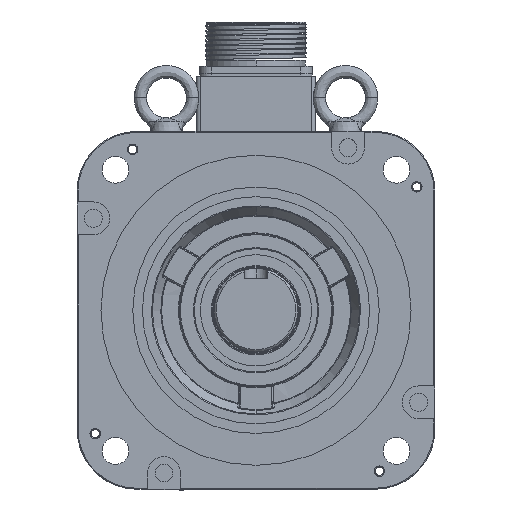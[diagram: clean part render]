
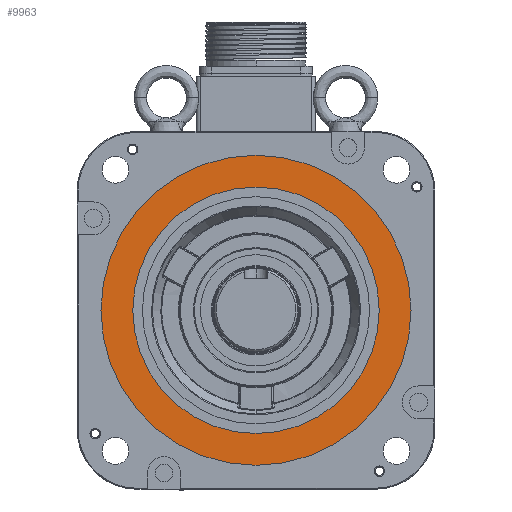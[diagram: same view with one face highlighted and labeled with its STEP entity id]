
A CAD part, top view. The second image highlights one B-rep face of the part: STEP entity #9963.
In plain terms, the highlighted planar face has unit normal (0, 0, -1).
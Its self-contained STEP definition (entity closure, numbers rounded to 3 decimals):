
#428 = DIRECTION ( 'NONE',  ( 0., 0., -1. ) ) ;
#1720 = AXIS2_PLACEMENT_3D ( 'NONE', #20860, #428, #24316 ) ;
#4794 = CIRCLE ( 'NONE', #1720, 62. ) ;
#4994 = EDGE_CURVE ( 'NONE', #32543, #9659, #23048, .T. ) ;
#5049 = DIRECTION ( 'NONE',  ( 1., 0., 0. ) ) ;
#6677 = ORIENTED_EDGE ( 'NONE', *, *, #37160, .F. ) ;
#8297 = CARTESIAN_POINT ( 'NONE',  ( 36.315, 219.183, 90.807 ) ) ;
#9416 = AXIS2_PLACEMENT_3D ( 'NONE', #19253, #43199, #22704 ) ;
#9659 = VERTEX_POINT ( 'NONE', #18515 ) ;
#9963 = ADVANCED_FACE ( 'NONE', ( #18445, #10437 ), #22079, .F. ) ;
#10437 = FACE_BOUND ( 'NONE', #22372, .T. ) ;
#12763 = CIRCLE ( 'NONE', #43397, 62. ) ;
#16477 = EDGE_CURVE ( 'NONE', #33425, #23368, #12763, .T. ) ;
#18423 = DIRECTION ( 'NONE',  ( 0., 0., 1. ) ) ;
#18445 = FACE_OUTER_BOUND ( 'NONE', #21808, .T. ) ;
#18515 = CARTESIAN_POINT ( 'NONE',  ( 114.315, 219.183, 90.807 ) ) ;
#18836 = DIRECTION ( 'NONE',  ( 0., 0., -1. ) ) ;
#19253 = CARTESIAN_POINT ( 'NONE',  ( 36.315, 219.183, 90.807 ) ) ;
#19306 = CARTESIAN_POINT ( 'NONE',  ( -25.685, 219.183, 90.807 ) ) ;
#20860 = CARTESIAN_POINT ( 'NONE',  ( 36.315, 219.183, 90.807 ) ) ;
#21808 = EDGE_LOOP ( 'NONE', ( #6677, #42062 ) ) ;
#21888 = AXIS2_PLACEMENT_3D ( 'NONE', #38940, #18423, #42403 ) ;
#22079 = PLANE ( 'NONE',  #26620 ) ;
#22372 = EDGE_LOOP ( 'NONE', ( #38418, #28121 ) ) ;
#22422 = CIRCLE ( 'NONE', #9416, 78. ) ;
#22704 = DIRECTION ( 'NONE',  ( 1., 0., 0. ) ) ;
#23048 = CIRCLE ( 'NONE', #21888, 78. ) ;
#23368 = VERTEX_POINT ( 'NONE', #27472 ) ;
#24316 = DIRECTION ( 'NONE',  ( 1., 0., 0. ) ) ;
#25369 = EDGE_CURVE ( 'NONE', #23368, #33425, #4794, .T. ) ;
#25510 = DIRECTION ( 'NONE',  ( 0., 0., 1. ) ) ;
#26620 = AXIS2_PLACEMENT_3D ( 'NONE', #8297, #25510, #5049 ) ;
#27472 = CARTESIAN_POINT ( 'NONE',  ( 98.315, 219.183, 90.807 ) ) ;
#28121 = ORIENTED_EDGE ( 'NONE', *, *, #16477, .F. ) ;
#31854 = CARTESIAN_POINT ( 'NONE',  ( -41.685, 219.183, 90.807 ) ) ;
#32543 = VERTEX_POINT ( 'NONE', #31854 ) ;
#33425 = VERTEX_POINT ( 'NONE', #19306 ) ;
#37160 = EDGE_CURVE ( 'NONE', #9659, #32543, #22422, .T. ) ;
#38418 = ORIENTED_EDGE ( 'NONE', *, *, #25369, .F. ) ;
#38940 = CARTESIAN_POINT ( 'NONE',  ( 36.315, 219.183, 90.807 ) ) ;
#39327 = CARTESIAN_POINT ( 'NONE',  ( 36.315, 219.183, 90.807 ) ) ;
#42062 = ORIENTED_EDGE ( 'NONE', *, *, #4994, .F. ) ;
#42403 = DIRECTION ( 'NONE',  ( 1., 0., 0. ) ) ;
#42797 = DIRECTION ( 'NONE',  ( 1., 0., 0. ) ) ;
#43199 = DIRECTION ( 'NONE',  ( 0., 0., 1. ) ) ;
#43397 = AXIS2_PLACEMENT_3D ( 'NONE', #39327, #18836, #42797 ) ;
